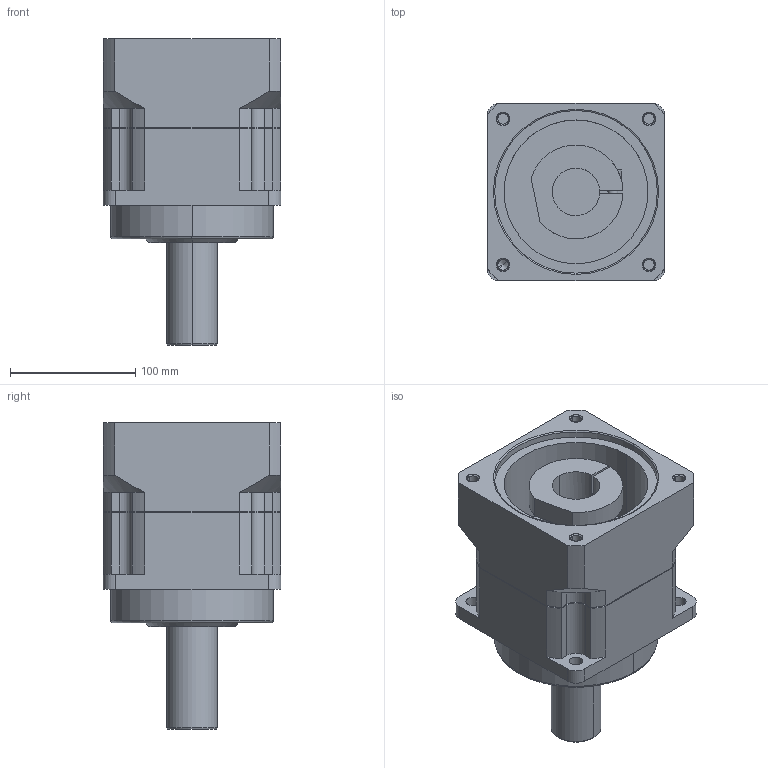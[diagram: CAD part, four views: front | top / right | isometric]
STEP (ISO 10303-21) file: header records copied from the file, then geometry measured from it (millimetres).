
FILE_DESCRIPTION((''),'2;1');
FILE_NAME('AF1401-P4050102_ASM','2005-09-13T',('jacky'),(''),'PRO/ENGINEER BY PARAMETRIC TECHNOLOGY CORPORATION, 2001280','PRO/ENGINEER BY PARAMETRIC TECHNOLOGY CORPORATION, 2001280','');
FILE_SCHEMA(('CONFIG_CONTROL_DESIGN'));
Length unit declared in the file: millimetre
Products named in the file (3): AF1401; P4050102; AF1401-P4050102_ASM
Assembly tree (2 placements, depth 2):
  AF1401-P4050102_ASM
    AF1401
    P4050102
Bounding box: 142 x 142 x 245 mm (x, y, z)
Volume: 2330083.6 mm3; surface area: 208290.3 mm2
Topology: 2 solids, 7 shells, 197 faces, 489 edges, 310 vertices
Faces by surface type: cylinder 81, plane 76, cone 32, torus 8
Entity records: 6053 total; most frequent: CARTESIAN_POINT 1116, DIRECTION 1095, ORIENTED_EDGE 948, EDGE_CURVE 485, AXIS2_PLACEMENT_3D 429, VERTEX_POINT 310, VECTOR 237, LINE 237
